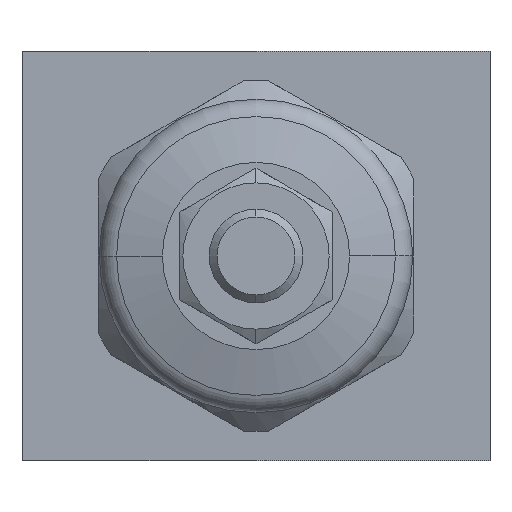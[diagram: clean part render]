
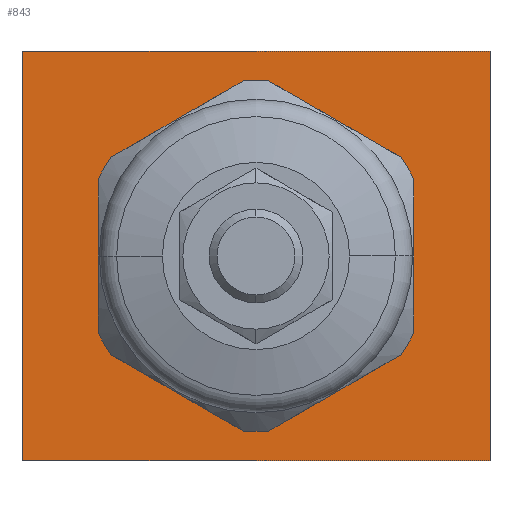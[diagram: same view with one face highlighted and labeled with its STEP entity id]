
A CAD part, left-side view. The second image highlights one B-rep face of the part: STEP entity #843.
In plain terms, the highlighted planar face has unit normal (-1, 0, 0) as drawn and (1, 0, 0) by its records, which use the part's own axes.
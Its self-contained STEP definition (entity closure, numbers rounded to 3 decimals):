
#727=PLANE('',#2769);
#843=ADVANCED_FACE('',(#984),#727,.T.);
#984=FACE_OUTER_BOUND('',#1106,.T.);
#1106=EDGE_LOOP('',(#1678,#1679,#1680,#1681));
#1283=LINE('',#3812,#1418);
#1288=LINE('',#3823,#1423);
#1297=LINE('',#3839,#1432);
#1300=LINE('',#3847,#1435);
#1418=VECTOR('',#3106,1.);
#1423=VECTOR('',#3115,1.);
#1432=VECTOR('',#3126,1.);
#1435=VECTOR('',#3135,1.);
#1678=ORIENTED_EDGE('',*,*,#2386,.T.);
#1679=ORIENTED_EDGE('',*,*,#2377,.T.);
#1680=ORIENTED_EDGE('',*,*,#2371,.T.);
#1681=ORIENTED_EDGE('',*,*,#2391,.T.);
#2166=VERTEX_POINT('',#3811);
#2167=VERTEX_POINT('',#3813);
#2171=VERTEX_POINT('',#3824);
#2177=VERTEX_POINT('',#3840);
#2371=EDGE_CURVE('',#2167,#2166,#1283,.T.);
#2377=EDGE_CURVE('',#2171,#2167,#1288,.T.);
#2386=EDGE_CURVE('',#2177,#2171,#1297,.T.);
#2391=EDGE_CURVE('',#2166,#2177,#1300,.T.);
#2769=AXIS2_PLACEMENT_3D('',#3852,#3143,#3144);
#3106=DIRECTION('',(0.,1.,0.));
#3115=DIRECTION('',(0.,0.,-1.));
#3126=DIRECTION('',(0.,-1.,0.));
#3135=DIRECTION('',(0.,0.,1.));
#3143=DIRECTION('',(1.,0.,0.));
#3144=DIRECTION('',(0.,0.,-1.));
#3811=CARTESIAN_POINT('',(0.,20.,-17.5));
#3812=CARTESIAN_POINT('',(0.,17.5,-17.5));
#3813=CARTESIAN_POINT('',(0.,-20.,-17.5));
#3823=CARTESIAN_POINT('',(0.,-20.,17.5));
#3824=CARTESIAN_POINT('',(0.,-20.,17.5));
#3839=CARTESIAN_POINT('',(0.,17.5,17.5));
#3840=CARTESIAN_POINT('',(0.,20.,17.5));
#3847=CARTESIAN_POINT('',(0.,20.,17.5));
#3852=CARTESIAN_POINT('',(0.,-17.5,17.5));
